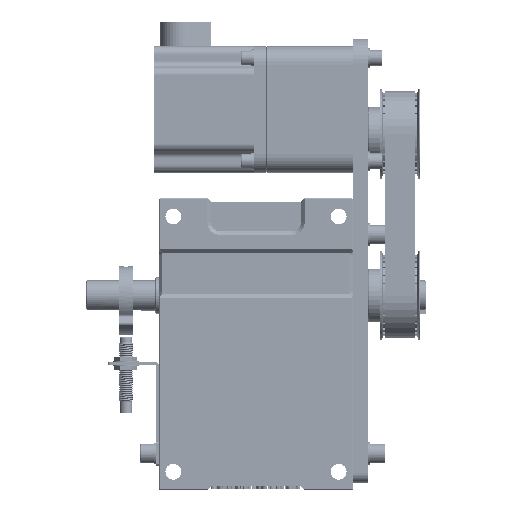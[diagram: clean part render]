
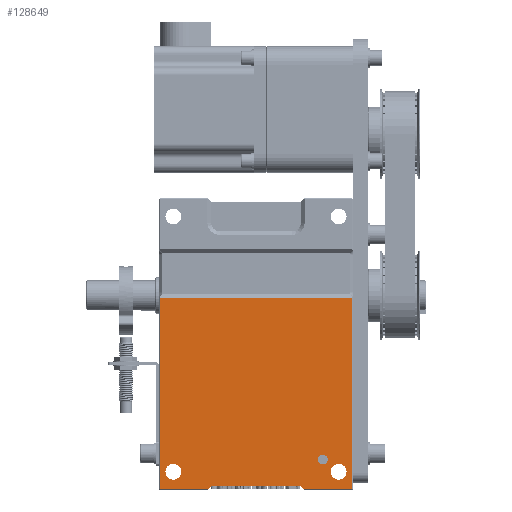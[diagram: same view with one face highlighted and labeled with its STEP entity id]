
A CAD part, front view. The second image highlights one B-rep face of the part: STEP entity #128649.
In plain terms, the highlighted planar face has unit normal (0, -1, 0).
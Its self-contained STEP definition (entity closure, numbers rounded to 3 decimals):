
#3849 = DIRECTION ( 'NONE',  ( 0., 1., 0. ) ) ;
#12680 = CARTESIAN_POINT ( 'NONE',  ( -80., 115., -159. ) ) ;
#13313 = DIRECTION ( 'NONE',  ( -1., 0., 0. ) ) ;
#16804 = VECTOR ( 'NONE', #165504, 1000. ) ;
#18344 = FACE_BOUND ( 'NONE', #20801, .T. ) ;
#20801 = EDGE_LOOP ( 'NONE', ( #164382, #173249 ) ) ;
#21914 = ORIENTED_EDGE ( 'NONE', *, *, #65832, .F. ) ;
#22014 = CIRCLE ( 'NONE', #26521, 6.5 ) ;
#22494 = AXIS2_PLACEMENT_3D ( 'NONE', #64235, #168097, #79131 ) ;
#23191 = LINE ( 'NONE', #97466, #62901 ) ;
#23543 = CARTESIAN_POINT ( 'NONE',  ( -119., 115., -159. ) ) ;
#25240 = ORIENTED_EDGE ( 'NONE', *, *, #62137, .F. ) ;
#26521 = AXIS2_PLACEMENT_3D ( 'NONE', #37986, #141931, #53052 ) ;
#29355 = CIRCLE ( 'NONE', #106307, 6.5 ) ;
#32572 = EDGE_CURVE ( 'NONE', #144318, #184321, #184457, .T. ) ;
#33432 = CARTESIAN_POINT ( 'NONE',  ( -43., 115., -157. ) ) ;
#34842 = VERTEX_POINT ( 'NONE', #126484 ) ;
#35160 = VERTEX_POINT ( 'NONE', #183159 ) ;
#36898 = AXIS2_PLACEMENT_3D ( 'NONE', #81400, #185314, #96390 ) ;
#37986 = CARTESIAN_POINT ( 'NONE',  ( -148., 115., -145. ) ) ;
#40114 = VECTOR ( 'NONE', #132474, 1000. ) ;
#42902 = CARTESIAN_POINT ( 'NONE',  ( -148., 115., -145. ) ) ;
#47448 = VERTEX_POINT ( 'NONE', #33432 ) ;
#50394 = VERTEX_POINT ( 'NONE', #23543 ) ;
#51104 = ORIENTED_EDGE ( 'NONE', *, *, #76549, .F. ) ;
#51701 = VERTEX_POINT ( 'NONE', #57933 ) ;
#53052 = DIRECTION ( 'NONE',  ( 0., 0., 1. ) ) ;
#57819 = DIRECTION ( 'NONE',  ( 0., 0., 1. ) ) ;
#57933 = CARTESIAN_POINT ( 'NONE',  ( -159., 115., -159. ) ) ;
#58149 = FACE_BOUND ( 'NONE', #75935, .T. ) ;
#59937 = CARTESIAN_POINT ( 'NONE',  ( -12., 115., -145. ) ) ;
#61231 = LINE ( 'NONE', #179829, #16804 ) ;
#61517 = EDGE_CURVE ( 'NONE', #34842, #152353, #22014, .T. ) ;
#62137 = EDGE_CURVE ( 'NONE', #95416, #131869, #126624, .T. ) ;
#62901 = VECTOR ( 'NONE', #186421, 1000. ) ;
#63808 = EDGE_CURVE ( 'NONE', #131869, #35160, #142833, .T. ) ;
#63887 = EDGE_LOOP ( 'NONE', ( #99920, #51104 ) ) ;
#64057 = EDGE_CURVE ( 'NONE', #35160, #139789, #66050, .T. ) ;
#64235 = CARTESIAN_POINT ( 'NONE',  ( -12., 115., -145. ) ) ;
#65832 = EDGE_CURVE ( 'NONE', #139789, #47448, #23191, .T. ) ;
#66050 = LINE ( 'NONE', #12680, #179906 ) ;
#67922 = AXIS2_PLACEMENT_3D ( 'NONE', #69975, #173843, #84859 ) ;
#68952 = EDGE_CURVE ( 'NONE', #47448, #186167, #188035, .T. ) ;
#69118 = CARTESIAN_POINT ( 'NONE',  ( -117., 115., -157. ) ) ;
#69599 = VECTOR ( 'NONE', #96987, 1000. ) ;
#69975 = CARTESIAN_POINT ( 'NONE',  ( -25., 115., -135. ) ) ;
#70314 = EDGE_CURVE ( 'NONE', #186167, #50394, #127028, .T. ) ;
#74557 = EDGE_CURVE ( 'NONE', #50394, #51701, #158625, .T. ) ;
#74782 = CARTESIAN_POINT ( 'NONE',  ( -148., 115., -151.5 ) ) ;
#74796 = DIRECTION ( 'NONE',  ( 0., 0., 1. ) ) ;
#74885 = EDGE_CURVE ( 'NONE', #51701, #95416, #61231, .T. ) ;
#75935 = EDGE_LOOP ( 'NONE', ( #82585, #160751 ) ) ;
#76549 = EDGE_CURVE ( 'NONE', #184321, #144318, #148784, .T. ) ;
#78274 = EDGE_CURVE ( 'NONE', #152353, #34842, #29355, .T. ) ;
#78752 = CARTESIAN_POINT ( 'NONE',  ( -159., 115., -2. ) ) ;
#79015 = CARTESIAN_POINT ( 'NONE',  ( -25., 115., -139. ) ) ;
#79131 = DIRECTION ( 'NONE',  ( 0., 0., 1. ) ) ;
#79693 = EDGE_CURVE ( 'NONE', #143728, #84791, #131118, .T. ) ;
#81400 = CARTESIAN_POINT ( 'NONE',  ( -25., 115., -135. ) ) ;
#82010 = CARTESIAN_POINT ( 'NONE',  ( -80., 115., -157. ) ) ;
#82585 = ORIENTED_EDGE ( 'NONE', *, *, #79693, .F. ) ;
#84791 = VERTEX_POINT ( 'NONE', #180685 ) ;
#84859 = DIRECTION ( 'NONE',  ( 0., 0., -1. ) ) ;
#87455 = VECTOR ( 'NONE', #124100, 1000. ) ;
#92964 = FACE_BOUND ( 'NONE', #63887, .T. ) ;
#93108 = CARTESIAN_POINT ( 'NONE',  ( -80., 115., -40. ) ) ;
#94896 = CARTESIAN_POINT ( 'NONE',  ( -1., 115., -40. ) ) ;
#95416 = VERTEX_POINT ( 'NONE', #78752 ) ;
#96390 = DIRECTION ( 'NONE',  ( 0., 0., -1. ) ) ;
#96987 = DIRECTION ( 'NONE',  ( -1., 0., 0. ) ) ;
#97466 = CARTESIAN_POINT ( 'NONE',  ( -41., 115., -159. ) ) ;
#99920 = ORIENTED_EDGE ( 'NONE', *, *, #32572, .F. ) ;
#103140 = ORIENTED_EDGE ( 'NONE', *, *, #64057, .F. ) ;
#106307 = AXIS2_PLACEMENT_3D ( 'NONE', #42902, #146753, #57819 ) ;
#108031 = DIRECTION ( 'NONE',  ( 0., 0., 1. ) ) ;
#108500 = CARTESIAN_POINT ( 'NONE',  ( -117., 115., -157. ) ) ;
#112623 = CARTESIAN_POINT ( 'NONE',  ( -80., 115., -2. ) ) ;
#115965 = ORIENTED_EDGE ( 'NONE', *, *, #63808, .F. ) ;
#118178 = AXIS2_PLACEMENT_3D ( 'NONE', #59937, #163755, #74796 ) ;
#121923 = VECTOR ( 'NONE', #158058, 1000. ) ;
#123612 = AXIS2_PLACEMENT_3D ( 'NONE', #93108, #3849, #108031 ) ;
#124100 = DIRECTION ( 'NONE',  ( -0.707, 0., -0.707 ) ) ;
#125279 = CARTESIAN_POINT ( 'NONE',  ( -12., 115., -151.5 ) ) ;
#126071 = DIRECTION ( 'NONE',  ( 0., 0., -1. ) ) ;
#126484 = CARTESIAN_POINT ( 'NONE',  ( -148., 115., -138.5 ) ) ;
#126624 = LINE ( 'NONE', #112623, #121923 ) ;
#127028 = LINE ( 'NONE', #108500, #87455 ) ;
#128649 = ADVANCED_FACE ( 'NONE', ( #58149, #18344, #92964, #171953 ), #181386, .F. ) ;
#131118 = CIRCLE ( 'NONE', #36898, 4. ) ;
#131869 = VERTEX_POINT ( 'NONE', #145893 ) ;
#132474 = DIRECTION ( 'NONE',  ( -1., 0., 0. ) ) ;
#134692 = CARTESIAN_POINT ( 'NONE',  ( -12., 115., -138.5 ) ) ;
#139560 = CARTESIAN_POINT ( 'NONE',  ( -41., 115., -159. ) ) ;
#139789 = VERTEX_POINT ( 'NONE', #139560 ) ;
#141931 = DIRECTION ( 'NONE',  ( 0., -1., 0. ) ) ;
#142576 = CIRCLE ( 'NONE', #67922, 4. ) ;
#142833 = LINE ( 'NONE', #94896, #177670 ) ;
#143728 = VERTEX_POINT ( 'NONE', #79015 ) ;
#144318 = VERTEX_POINT ( 'NONE', #134692 ) ;
#145893 = CARTESIAN_POINT ( 'NONE',  ( -1., 115., -2. ) ) ;
#146753 = DIRECTION ( 'NONE',  ( 0., -1., 0. ) ) ;
#148784 = CIRCLE ( 'NONE', #22494, 6.5 ) ;
#149929 = ORIENTED_EDGE ( 'NONE', *, *, #70314, .F. ) ;
#152353 = VERTEX_POINT ( 'NONE', #74782 ) ;
#154641 = EDGE_LOOP ( 'NONE', ( #180177, #149929, #171986, #21914, #103140, #115965, #25240, #186924 ) ) ;
#158058 = DIRECTION ( 'NONE',  ( 1., 0., 0. ) ) ;
#158625 = LINE ( 'NONE', #176636, #40114 ) ;
#160751 = ORIENTED_EDGE ( 'NONE', *, *, #163853, .F. ) ;
#163755 = DIRECTION ( 'NONE',  ( 0., -1., 0. ) ) ;
#163853 = EDGE_CURVE ( 'NONE', #84791, #143728, #142576, .T. ) ;
#164382 = ORIENTED_EDGE ( 'NONE', *, *, #61517, .F. ) ;
#165504 = DIRECTION ( 'NONE',  ( 0., 0., 1. ) ) ;
#168097 = DIRECTION ( 'NONE',  ( 0., -1., 0. ) ) ;
#171953 = FACE_OUTER_BOUND ( 'NONE', #154641, .T. ) ;
#171986 = ORIENTED_EDGE ( 'NONE', *, *, #68952, .F. ) ;
#173249 = ORIENTED_EDGE ( 'NONE', *, *, #78274, .F. ) ;
#173843 = DIRECTION ( 'NONE',  ( 0., -1., 0. ) ) ;
#176636 = CARTESIAN_POINT ( 'NONE',  ( -80., 115., -159. ) ) ;
#177670 = VECTOR ( 'NONE', #126071, 1000. ) ;
#179829 = CARTESIAN_POINT ( 'NONE',  ( -159., 115., -40. ) ) ;
#179906 = VECTOR ( 'NONE', #13313, 1000. ) ;
#180177 = ORIENTED_EDGE ( 'NONE', *, *, #74557, .F. ) ;
#180685 = CARTESIAN_POINT ( 'NONE',  ( -25., 115., -131. ) ) ;
#181386 = PLANE ( 'NONE',  #123612 ) ;
#183159 = CARTESIAN_POINT ( 'NONE',  ( -1., 115., -159. ) ) ;
#184321 = VERTEX_POINT ( 'NONE', #125279 ) ;
#184457 = CIRCLE ( 'NONE', #118178, 6.5 ) ;
#185314 = DIRECTION ( 'NONE',  ( 0., -1., 0. ) ) ;
#186167 = VERTEX_POINT ( 'NONE', #69118 ) ;
#186421 = DIRECTION ( 'NONE',  ( -0.707, 0., 0.707 ) ) ;
#186924 = ORIENTED_EDGE ( 'NONE', *, *, #74885, .F. ) ;
#188035 = LINE ( 'NONE', #82010, #69599 ) ;
